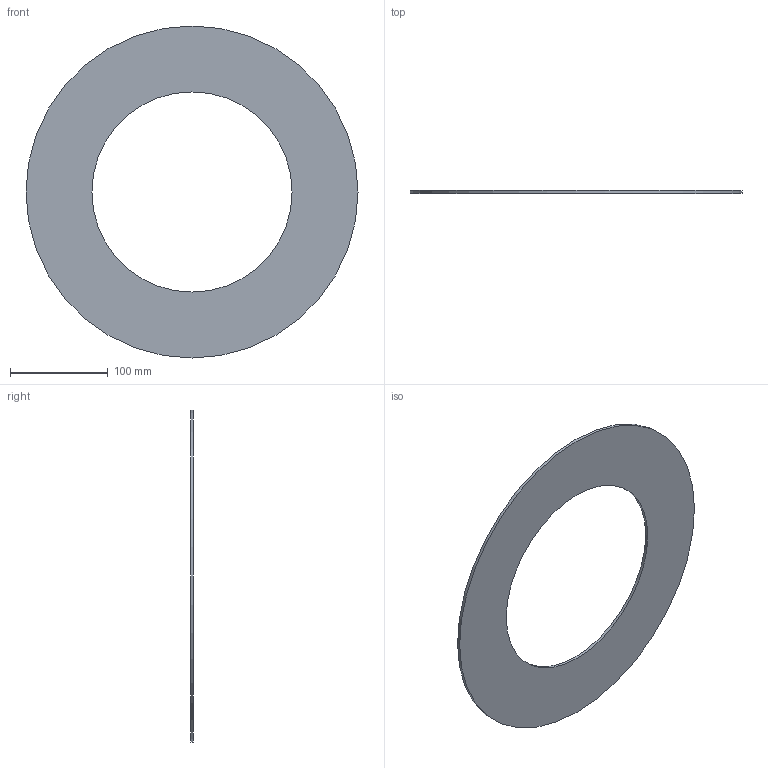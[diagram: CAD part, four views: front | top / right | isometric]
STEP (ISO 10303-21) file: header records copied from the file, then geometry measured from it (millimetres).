
FILE_DESCRIPTION(/* description */ ('Unknown'),/* implementation_level */ '2;1');
FILE_NAME(/* name */ 'GUA.280H',/* time_stamp */ '2021-04-01T15:06:16+02:00',/* author */ ('Unknown'),/* organization */ ('Unknown'),/* preprocessor_version */ 'ST-DEVELOPER v16.7',/* originating_system */ 'Solid Edge',/* authorisation */ 'Unknown');
FILE_SCHEMA (('AUTOMOTIVE_DESIGN {1 0 10303 214 3 1 1}'));
Length unit declared in the file: millimetre
Products named in the file (1): GUA.280H
Bounding box: 340 x 3 x 340 mm (x, y, z)
Volume: 173357 mm3; surface area: 120707.8 mm2
Topology: 1 solids, 1 shells, 4 faces, 6 edges, 4 vertices
Faces by surface type: cylinder 2, plane 2
Full cylindrical faces by diameter (mm): 205 x1, 340 x1
Entity records: 118 total; most frequent: DIRECTION 18, CARTESIAN_POINT 13, AXIS2_PLACEMENT_3D 9, ORIENTED_EDGE 8, EDGE_LOOP 8, FACE_BOUND 8, EDGE_CURVE 4, VERTEX_POINT 4
